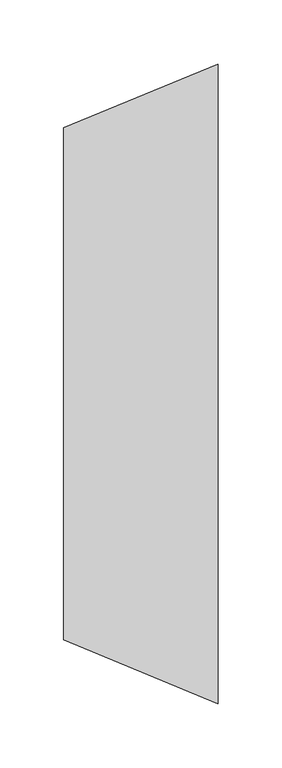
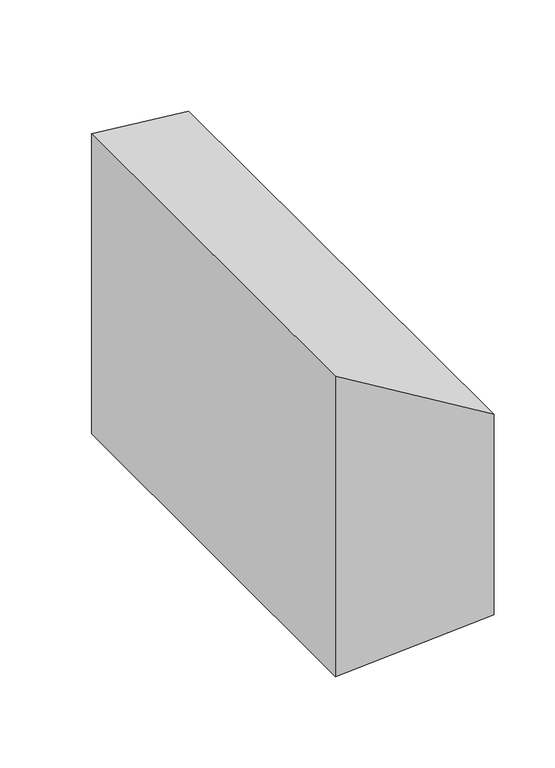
"""IFC4 building model written with IfcOpenShell, lengths in millimetres: duct fitting geometry, M_Transición rectangular - Ángulo : EXT_45 graus."""

from ifc_helpers import new_model, si_unit, origin, place, context, project, spatial, faceted_brep, source, transform, mapped, element, save


def duct_fitting_a9c6f05c(model_context):
    return source(origin(), model_context, "Body", "Brep", [
        faceted_brep([(120.7106781, -250.0000232, 100.0), (120.7106781, -250.0000232, -100.0), (120.7106781, 249.9999768, -100.0), (120.7106781, 249.9999768, 100.0), (0.0, -200.0, 150.0), (0.0, 200.0, 150.0), (0.0, 200.0, -150.0), (0.0, -200.0, -150.0)], [[[0, 1, 2, 3]], [[4, 5, 6, 7]], [[4, 7, 1, 0]], [[7, 6, 2, 1]], [[6, 5, 3, 2]], [[5, 4, 0, 3]]]),
    ])


if __name__ == "__main__":
    model = new_model("IFC4")
    model_context = context("Model", 3, world=origin())
    ifc_project = project(units=[si_unit("LENGTHUNIT", "METRE", prefix="MILLI")], contexts=[model_context])
    site = spatial("IfcSite", under=ifc_project)
    building = spatial("IfcBuilding", under=site)
    placement = place(None, origin())
    duct_fitting_shape = duct_fitting_a9c6f05c(model_context)
    element("IfcDuctFitting", 1, ObjectType="M_Transición rectangular - Ángulo : EXT_45 graus", at=placement, inside=building, context=model_context, shape_type="MappedRepresentation", body=[
        mapped(duct_fitting_shape, transform((0.0, 0.0, 0.0), x_axis=(1.0, 0.0, 0.0), y_axis=(0.0, 1.0, 0.0), z_axis=(0.0, 0.0, 1.0))),
    ])
    save(model, "model.ifc")
